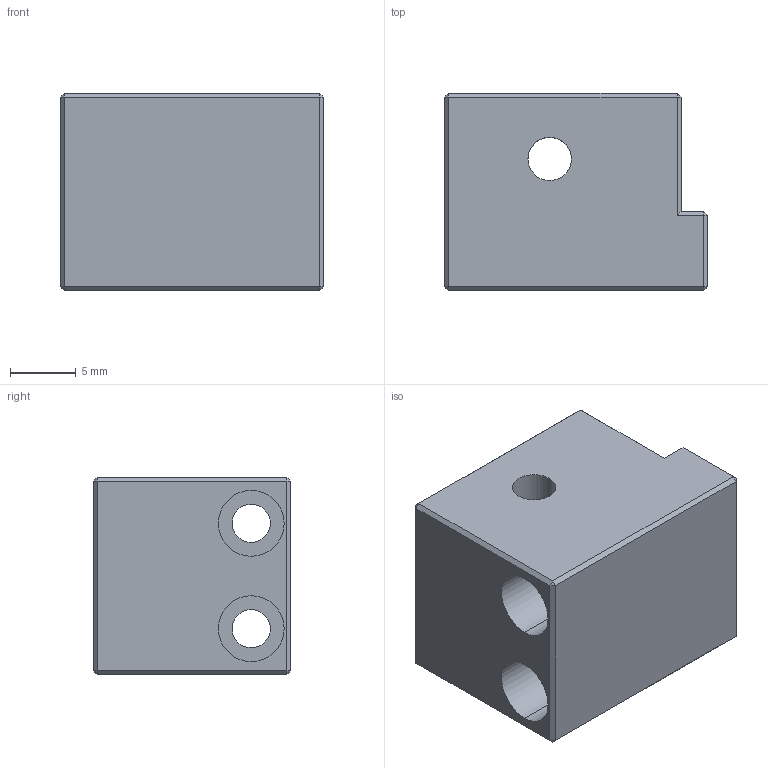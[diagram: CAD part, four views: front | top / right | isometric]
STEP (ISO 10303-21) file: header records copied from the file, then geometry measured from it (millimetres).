
FILE_DESCRIPTION (( 'STEP AP214' ), '1' );
FILE_NAME ('峚煦芛階輸.STEP', '2026-10-12T08:42:34', ( '' ), ( '' ), 'SwSTEP 2.0', 'SolidWorks 2024', '' );
FILE_SCHEMA (( 'AUTOMOTIVE_DESIGN' ));
Length unit declared in the file: millimetre
Products named in the file (1): 微分头顶块
Bounding box: 20 x 15 x 15 mm (x, y, z)
Volume: 3567.4 mm3; surface area: 2184.3 mm2
Topology: 1 solids, 1 shells, 47 faces, 97 edges, 54 vertices
Faces by surface type: plane 37, cylinder 10
Entity records: 1230 total; most frequent: DIRECTION 213, CARTESIAN_POINT 199, ORIENTED_EDGE 194, EDGE_CURVE 97, LINE 77, VECTOR 77, AXIS2_PLACEMENT_3D 68, EDGE_LOOP 55
